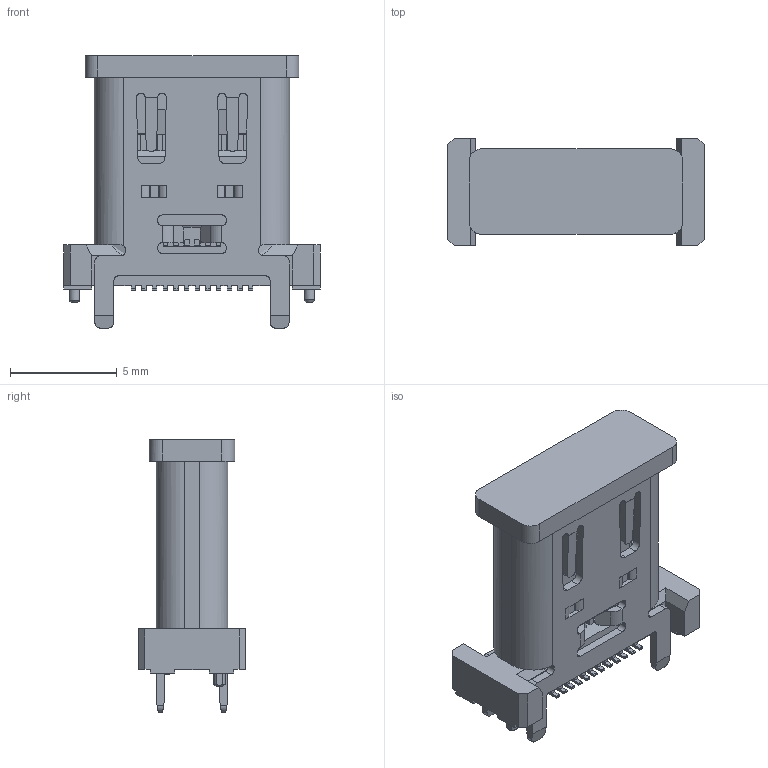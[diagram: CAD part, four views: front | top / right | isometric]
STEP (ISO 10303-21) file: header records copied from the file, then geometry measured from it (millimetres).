
FILE_DESCRIPTION (( 'STEP AP214' ), '1' );
FILE_NAME ('U5286-24PNT9.97L.STEP', '2026-06-02T07:15:48', ( '' ), ( '' ), 'SwSTEP 2.0', 'SolidWorks 2024', '' );
FILE_SCHEMA (( 'AUTOMOTIVE_DESIGN' ));
Length unit declared in the file: millimetre
Products named in the file (1): U5286-24PNT9.97L
Bounding box: 12 x 5 x 12.75 mm (x, y, z)
Surface area: 895.2 mm2 (no closed solid volume)
Topology: 0 solids, 8 shells, 1078 faces, 3061 edges, 1985 vertices
Faces by surface type: bspline 1078
Entity records: 34244 total; most frequent: CARTESIAN_POINT 16257, ORIENTED_EDGE 6108, EDGE_CURVE 3061, B_SPLINE_CURVE_WITH_KNOTS 2616, VERTEX_POINT 1985, EDGE_LOOP 1118, FACE_OUTER_BOUND 1078, ADVANCED_FACE 1078
